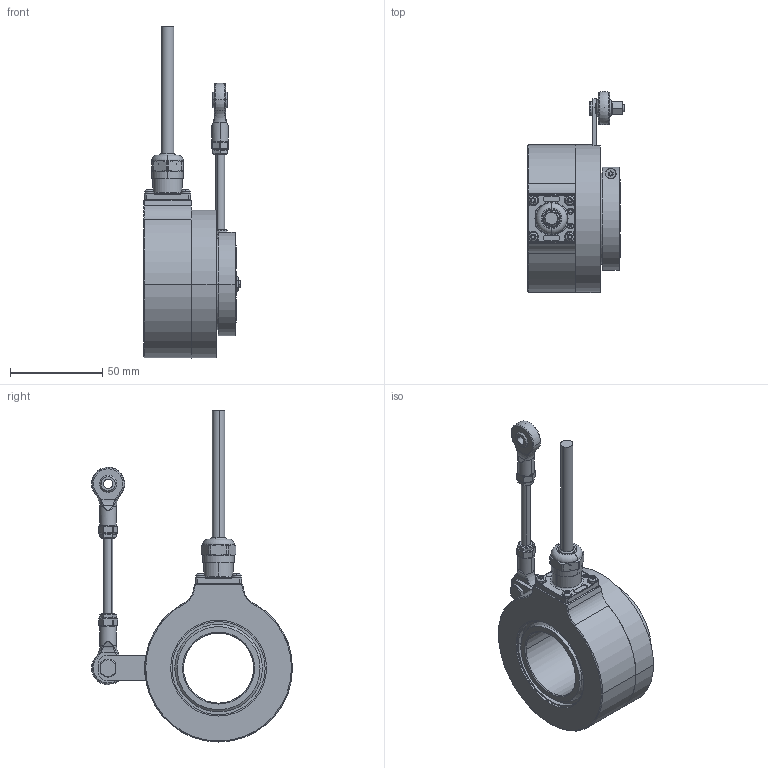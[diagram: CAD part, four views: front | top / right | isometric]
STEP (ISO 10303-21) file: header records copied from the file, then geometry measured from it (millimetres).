
FILE_DESCRIPTION (( 'STEP AP203' ), '1' );
FILE_NAME ('K80I.OXX.XXXXX.XH16838.6XR31.XXXX.step', '2025-12-09T08:26:19', ( '' ), ( '' ), 'SwSTEP 2.0', 'SolidWorks 2021', '' );
FILE_SCHEMA (( 'CONFIG_CONTROL_DESIGN' ));
Length unit declared in the file: millimetre
Products named in the file (1): K80I.OXX.XXXXX.XH16838.6XR31.XXXX
Bounding box: 52.6 x 108.97 x 180.07 mm (x, y, z)
Volume: 189050.4 mm3; surface area: 68533 mm2
Topology: 17 solids, 17 shells, 910 faces, 2291 edges, 1413 vertices
Faces by surface type: cylinder 305, plane 298, cone 120, bspline 92, torus 65, sphere 30
Entity records: 30389 total; most frequent: CARTESIAN_POINT 8989, ORIENTED_EDGE 4506, DIRECTION 4498, EDGE_CURVE 2253, AXIS2_PLACEMENT_3D 1774, VERTEX_POINT 1409, EDGE_LOOP 976, CIRCLE 955
